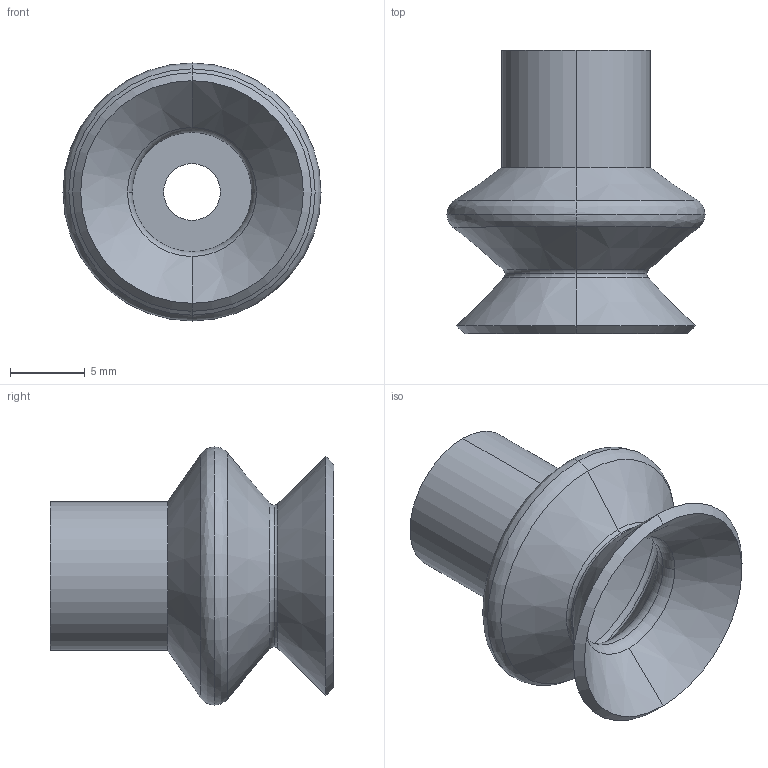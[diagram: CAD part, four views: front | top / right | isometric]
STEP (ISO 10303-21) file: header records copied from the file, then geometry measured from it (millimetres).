
FILE_DESCRIPTION (( 'STEP AP214' ), '1' );
FILE_NAME ('FGA16.STEP', '2023-03-07T06:29:16', ( 'Windows User' ), ( 'P R C' ), 'SwSTEP 2.0', 'SolidWorks 2019', '' );
FILE_SCHEMA (( 'AUTOMOTIVE_DESIGN' ));
Length unit declared in the file: millimetre
Products named in the file (1): FGA16
Bounding box: 17.3 x 19 x 17.3 mm (x, y, z)
Volume: 1095.8 mm3; surface area: 1717.6 mm2
Topology: 1 solids, 1 shells, 36 faces, 76 edges, 42 vertices
Faces by surface type: cone 14, torus 8, bspline 8, cylinder 4, plane 2
Entity records: 1096 total; most frequent: CARTESIAN_POINT 275, DIRECTION 192, ORIENTED_EDGE 152, AXIS2_PLACEMENT_3D 87, EDGE_CURVE 76, CIRCLE 58, VERTEX_POINT 42, EDGE_LOOP 38
